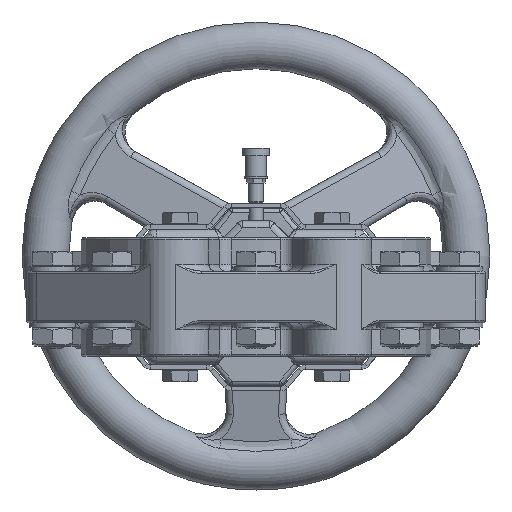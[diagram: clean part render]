
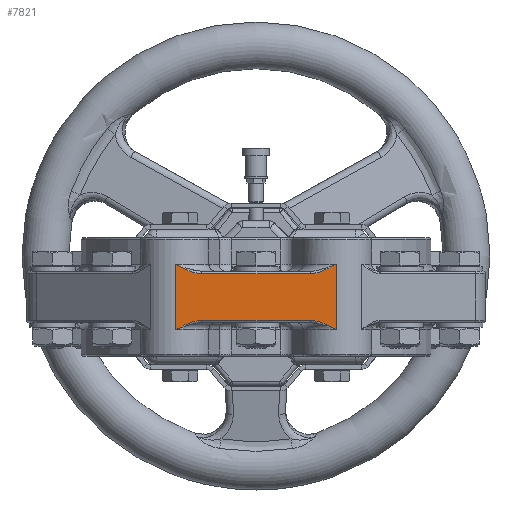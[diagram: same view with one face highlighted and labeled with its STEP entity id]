
A CAD part, front view. The second image highlights one B-rep face of the part: STEP entity #7821.
In plain terms, the highlighted planar face has unit normal (0, -1, 0).
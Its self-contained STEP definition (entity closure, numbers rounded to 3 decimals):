
#5423=B_SPLINE_CURVE_WITH_KNOTS('',3,(#70888,#70889,#70890,#70891,#70892,
#70893,#70894,#70895),.UNSPECIFIED.,.F.,.F.,(4,2,1,1,4),(0.,0.001,
0.401,0.6,1.),.UNSPECIFIED.);
#5428=B_SPLINE_CURVE_WITH_KNOTS('',3,(#70967,#70968,#70969,#70970,#70971,
#70972,#70973,#70974),.UNSPECIFIED.,.F.,.F.,(4,1,1,2,4),(0.,0.4,
0.599,0.999,1.),.UNSPECIFIED.);
#5429=B_SPLINE_CURVE_WITH_KNOTS('',3,(#71015,#71016,#71017,#71018,#71019,
#71020,#71021,#71022),.UNSPECIFIED.,.F.,.F.,(4,2,1,1,4),(0.,0.001,
0.401,0.6,1.),.UNSPECIFIED.);
#5434=B_SPLINE_CURVE_WITH_KNOTS('',3,(#71097,#71098,#71099,#71100,#71101,
#71102,#71103,#71104),.UNSPECIFIED.,.F.,.F.,(4,1,1,2,4),(0.,0.4,
0.599,0.999,1.),.UNSPECIFIED.);
#7821=ADVANCED_FACE('',(#11292),#9531,.F.);
#9531=PLANE('',#44915);
#11292=FACE_OUTER_BOUND('',#13837,.T.);
#13837=EDGE_LOOP('',(#21706,#21707,#21708,#21709,#21710,#21711,#21712,#21713));
#21706=ORIENTED_EDGE('',*,*,#34396,.F.);
#21707=ORIENTED_EDGE('',*,*,#34394,.F.);
#21708=ORIENTED_EDGE('',*,*,#34389,.F.);
#21709=ORIENTED_EDGE('',*,*,#34680,.F.);
#21710=ORIENTED_EDGE('',*,*,#34388,.F.);
#21711=ORIENTED_EDGE('',*,*,#34386,.F.);
#21712=ORIENTED_EDGE('',*,*,#34382,.F.);
#21713=ORIENTED_EDGE('',*,*,#34681,.T.);
#29410=VERTEX_POINT('',#70896);
#29411=VERTEX_POINT('',#70897);
#29412=VERTEX_POINT('',#70955);
#29413=VERTEX_POINT('',#70966);
#29414=VERTEX_POINT('',#71023);
#29415=VERTEX_POINT('',#71024);
#29417=VERTEX_POINT('',#71083);
#29419=VERTEX_POINT('',#71096);
#34382=EDGE_CURVE('',#29410,#29411,#5423,.T.);
#34386=EDGE_CURVE('',#29411,#29412,#38686,.T.);
#34388=EDGE_CURVE('',#29412,#29413,#5428,.T.);
#34389=EDGE_CURVE('',#29414,#29415,#5429,.T.);
#34394=EDGE_CURVE('',#29415,#29417,#38688,.T.);
#34396=EDGE_CURVE('',#29417,#29419,#5434,.T.);
#34680=EDGE_CURVE('',#29413,#29414,#38773,.T.);
#34681=EDGE_CURVE('',#29410,#29419,#38774,.T.);
#38686=LINE('',#70956,#41439);
#38688=LINE('',#71086,#41441);
#38773=LINE('',#72329,#41534);
#38774=LINE('',#72330,#41535);
#41439=VECTOR('',#51268,1.);
#41441=VECTOR('',#51272,1.);
#41534=VECTOR('',#51739,1.);
#41535=VECTOR('',#51740,1.);
#44915=AXIS2_PLACEMENT_3D('',#72331,#51741,#51742);
#51268=DIRECTION('',(1.,0.,0.));
#51272=DIRECTION('',(-1.,0.,0.));
#51739=DIRECTION('',(0.,0.,-1.));
#51740=DIRECTION('',(0.,0.,-1.));
#51741=DIRECTION('',(0.,1.,0.));
#51742=DIRECTION('',(0.,0.,-1.));
#70888=CARTESIAN_POINT('',(-34.441,-98.149,14.));
#70889=CARTESIAN_POINT('',(-34.437,-98.149,13.998));
#70890=CARTESIAN_POINT('',(-34.433,-98.149,13.995));
#70891=CARTESIAN_POINT('',(-33.009,-98.149,13.234));
#70892=CARTESIAN_POINT('',(-30.854,-98.149,12.082));
#70893=CARTESIAN_POINT('',(-27.143,-98.149,10.56));
#70894=CARTESIAN_POINT('',(-24.738,-98.149,10.));
#70895=CARTESIAN_POINT('',(-23.128,-98.149,10.));
#70896=CARTESIAN_POINT('',(-34.442,-98.149,14.));
#70897=CARTESIAN_POINT('',(-23.128,-98.149,10.));
#70955=CARTESIAN_POINT('',(23.128,-98.149,10.));
#70956=CARTESIAN_POINT('',(0.,-98.149,10.));
#70966=CARTESIAN_POINT('',(34.442,-98.149,14.));
#70967=CARTESIAN_POINT('',(23.128,-98.149,10.));
#70968=CARTESIAN_POINT('',(24.738,-98.149,10.));
#70969=CARTESIAN_POINT('',(27.141,-98.149,10.559));
#70970=CARTESIAN_POINT('',(30.856,-98.149,12.083));
#70971=CARTESIAN_POINT('',(33.009,-98.149,13.234));
#70972=CARTESIAN_POINT('',(34.433,-98.149,13.996));
#70973=CARTESIAN_POINT('',(34.437,-98.149,13.998));
#70974=CARTESIAN_POINT('',(34.442,-98.149,14.));
#71015=CARTESIAN_POINT('',(34.441,-98.149,-14.));
#71016=CARTESIAN_POINT('',(34.437,-98.149,-13.998));
#71017=CARTESIAN_POINT('',(34.433,-98.149,-13.995));
#71018=CARTESIAN_POINT('',(33.009,-98.149,-13.234));
#71019=CARTESIAN_POINT('',(30.854,-98.149,-12.082));
#71020=CARTESIAN_POINT('',(27.143,-98.149,-10.56));
#71021=CARTESIAN_POINT('',(24.738,-98.149,-10.));
#71022=CARTESIAN_POINT('',(23.128,-98.149,-10.));
#71023=CARTESIAN_POINT('',(34.442,-98.149,-14.));
#71024=CARTESIAN_POINT('',(23.128,-98.149,-10.));
#71083=CARTESIAN_POINT('',(-23.128,-98.149,-10.));
#71086=CARTESIAN_POINT('',(0.,-98.149,-10.));
#71096=CARTESIAN_POINT('',(-34.442,-98.149,-14.));
#71097=CARTESIAN_POINT('',(-23.128,-98.149,-10.));
#71098=CARTESIAN_POINT('',(-24.738,-98.149,-10.));
#71099=CARTESIAN_POINT('',(-27.141,-98.149,-10.559));
#71100=CARTESIAN_POINT('',(-30.856,-98.149,-12.083));
#71101=CARTESIAN_POINT('',(-33.009,-98.149,-13.234));
#71102=CARTESIAN_POINT('',(-34.433,-98.149,-13.996));
#71103=CARTESIAN_POINT('',(-34.437,-98.149,-13.998));
#71104=CARTESIAN_POINT('',(-34.442,-98.149,-14.));
#72329=CARTESIAN_POINT('',(34.442,-98.149,-25.4));
#72330=CARTESIAN_POINT('',(-34.442,-98.149,-25.4));
#72331=CARTESIAN_POINT('',(0.,-98.149,-11.));
